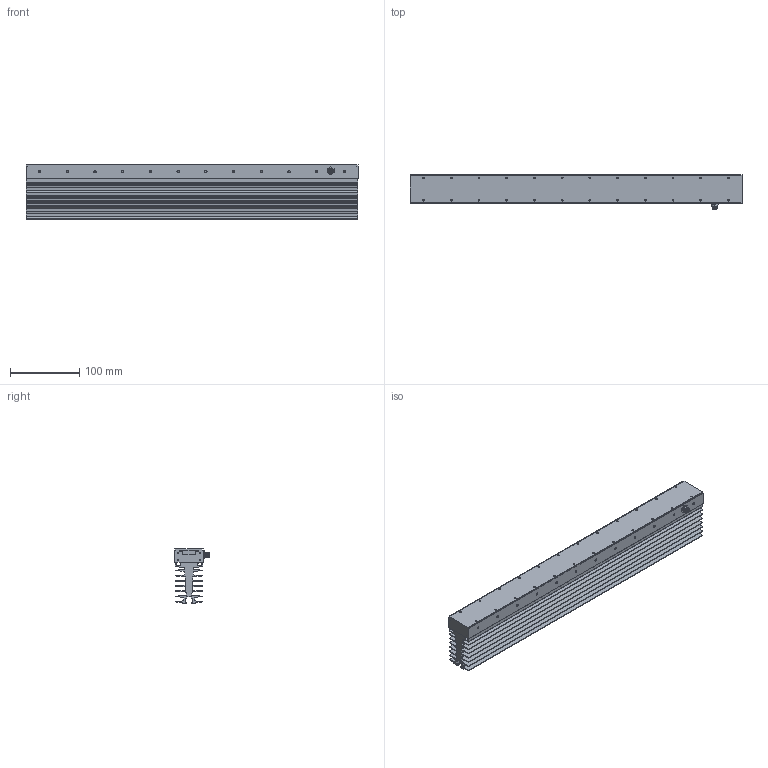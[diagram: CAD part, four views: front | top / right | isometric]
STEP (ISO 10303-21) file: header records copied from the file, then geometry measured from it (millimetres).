
FILE_DESCRIPTION(('STEP AP214'),'1');
FILE_NAME('Z:/Projekte Hr. Wünsch/SpaceClaim/Powerline-6TE/Powerline-6TE.stp','2013-12-09T12:51:38',(' '),(' '),'Spatial InterOp 3D',' ',' ');
FILE_SCHEMA(('automotive_design'));
Length unit declared in the file: millimetre
Products named in the file (2): Powerline-6TE; Powerline-6TE-Leiterplattenaufnahme
Assembly tree (1 placements, depth 2):
  Powerline-6TE
    Powerline-6TE-Leiterplattenaufnahme
Bounding box: 479 x 49.1 x 79 mm (x, y, z)
Volume: 821265.2 mm3; surface area: 369067.4 mm2
Topology: 1 solids, 12 shells, 623 faces, 1565 edges, 914 vertices
Faces by surface type: cylinder 273, plane 173, cone 152, torus 13, sphere 12
Entity records: 22725 total; most frequent: DIRECTION 3279, CARTESIAN_POINT 3088, ORIENTED_EDGE 2830, EDGE_CURVE 1415, AXIS2_PLACEMENT_3D 1256, VERTEX_POINT 914, LINE 767, VECTOR 767
